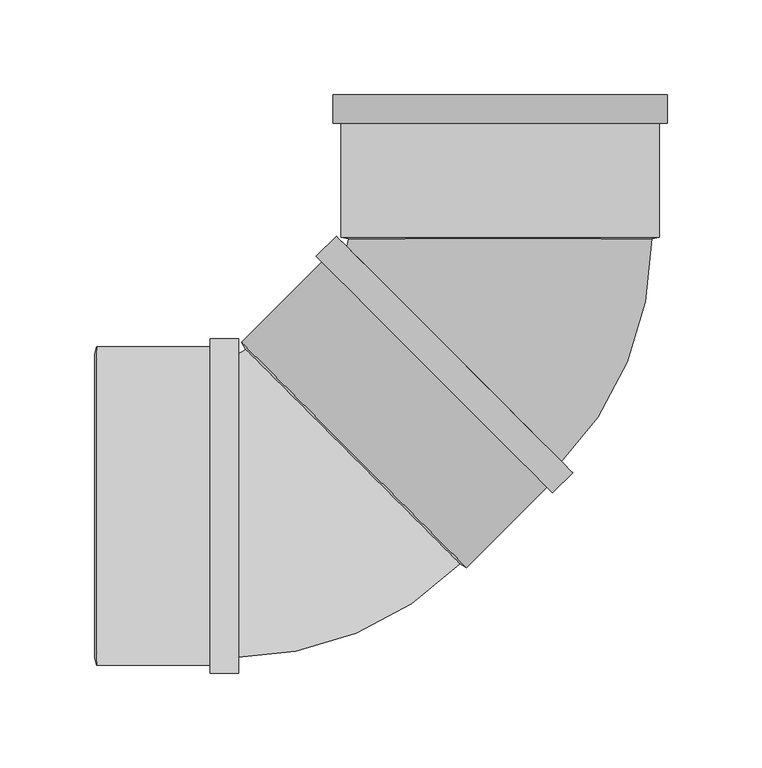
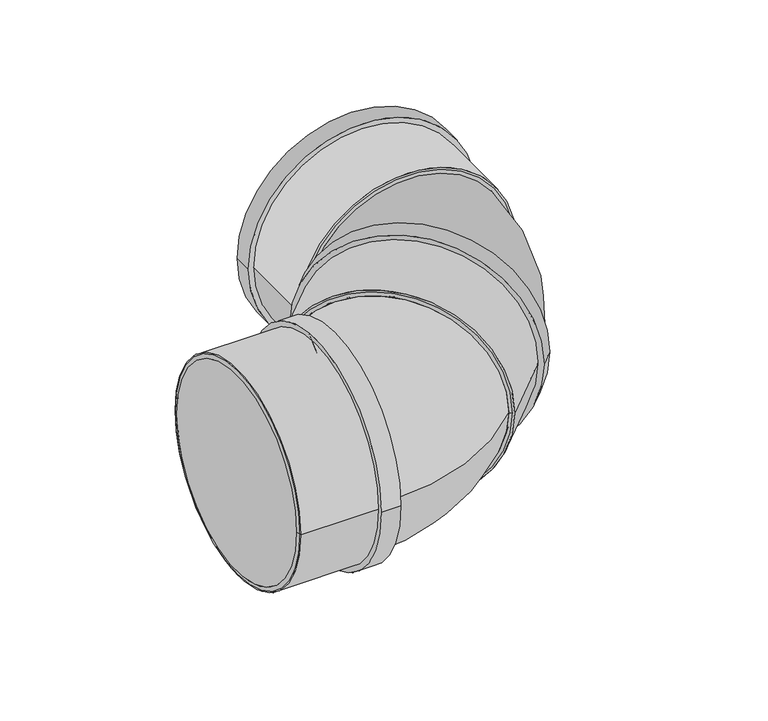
"""IFC4 building model written with IfcOpenShell, lengths in millimetres: pipe fitting geometry, Superdrain HT Bend Composite 2x45 : Superdrain HT Bend Composite 2x45."""

from ifc_helpers import new_model, si_unit, point, frame, origin, origin_2d, place, context, project, spatial, polyline, circle_curve, ellipse_curve, trimmed, segment, composite_curve, outline, extrude, source, transform, mapped, element, save
from ifc_brep_helpers import plane_surface, revolved_surface, advanced_brep


def pipe_fitting_c3cd4e37(model_context):
    return source(origin(), model_context, "Body", "SolidModel", [
        advanced_brep(
        [(80.0, 140.7739862, 0.0), (-80.0, 140.7739862, 0.0), (30.4763023, 21.2132034, 0.0), (-82.6607827, 134.3502884, 0.0)],
        [
            (0, 1, circle_curve(frame((0.0, 140.7739862, 0.0), z_axis=(0.0, 0.9999999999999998, 0.0), x_axis=(-0.9999999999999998, 0.0, 0.0)), 80.0)),
            (1, 0, circle_curve(frame((0.0, 140.7739862, 0.0), z_axis=(0.0, 1.0, 0.0), x_axis=(-1.0, 0.0, 0.0)), 80.0)),
            (2, 3, circle_curve(frame((-26.0922402, 77.7817459, 0.0), z_axis=(-0.7071067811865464, -0.7071067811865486, 0.0), x_axis=(-0.7071067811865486, 0.7071067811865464, 0.0)), 80.0)),
            (3, 2, circle_curve(frame((-26.0922402, 77.7817459, 0.0), z_axis=(-0.7071067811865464, -0.7071067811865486, 0.0), x_axis=(-0.7071067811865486, 0.7071067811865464, 0.0)), 80.0)),
            (3, 1, circle_curve(frame((-89.0844805, 140.7739862, 0.0), z_axis=(0.0, 0.0, 1.0), x_axis=(0.7071067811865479, 0.707106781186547, 0.0)), 9.0844805)),
            (0, 2, circle_curve(frame((-89.0844805, 140.7739862, 0.0), z_axis=(0.0, 0.0, -1.0), x_axis=(0.7071067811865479, 0.707106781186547, 0.0)), 169.0844805)),
        ],
        [
            plane_surface(frame((0.0, 140.7739862, 0.0), z_axis=(0.0, 1.0, 0.0), x_axis=(0.0, 0.0, -1.0))),
            plane_surface(frame((-26.0922402, 77.7817459, 0.0), z_axis=(-0.7071067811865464, -0.7071067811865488, 0.0), x_axis=(0.0, 0.0, -1.0))),
            revolved_surface(trimmed(ellipse_curve(frame((-26.0922402, 203.7662264, 0.0), z_axis=(0.7071067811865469, -0.707106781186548, 0.0), x_axis=(-0.707106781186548, -0.7071067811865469, 0.0)), 80.0, 80.0), [point((-82.6607827, 147.1976839, 0.0))], [point((30.4763023, 260.3347689, 0.0))], True, "CARTESIAN"), (-89.0844805, 140.7739862, 0.0), (0.0, 0.0, 1.0)),
            revolved_surface(trimmed(ellipse_curve(frame((-26.0922402, 203.7662264, 0.0), z_axis=(0.7071067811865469, -0.707106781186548, 0.0), x_axis=(-0.707106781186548, -0.7071067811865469, 0.0)), 80.0, 80.0), [point((30.4763023, 260.3347689, 0.0))], [point((-82.6607827, 147.1976839, 0.0))], True, "CARTESIAN"), (-89.0844805, 140.7739862, 0.0), (0.0, 0.0, 1.0)),
        ],
        [
            (0, [[1, 2]]),
            (1, [[3, 4]]),
            (2, [[-4, 5, -1, 6]]),
            (3, [[-3, -6, -2, -5]]),
        ],
    ),
        extrude(outline(composite_curve([segment(trimmed(circle_curve(origin_2d(), 84.0), [point((0.0, 84.0))], [point((0.0, -84.0))], False, "CARTESIAN"), True, "CONTINUOUS"), segment(trimmed(circle_curve(origin_2d(), 84.0), [point((0.0, -84.0))], [point((0.0, 84.0))], False, "CARTESIAN"), True, "CONTINUOUS")], self_intersect=False), holes=[composite_curve([segment(trimmed(circle_curve(origin_2d(), 80.0), [point((0.0, 80.0))], [point((0.0, -80.0))], True, "CARTESIAN"), True, "CONTINUOUS"), segment(trimmed(circle_curve(origin_2d(), 80.0), [point((0.0, -80.0))], [point((0.0, 80.0))], True, "CARTESIAN"), True, "CONTINUOUS")], self_intersect=False)]), frame((0.0, 141.7739862, 0.0), z_axis=(0.0, 1.0, 0.0), x_axis=(0.0, 0.0, 1.0)), (0.0, 0.0, 1.0), 75.0),
        extrude(outline(composite_curve([segment(trimmed(circle_curve(origin_2d(), 88.2), [point((0.0, -88.2))], [point((0.0, 88.2))], False, "CARTESIAN"), True, "CONTINUOUS"), segment(trimmed(circle_curve(origin_2d(), 88.2), [point((0.0, 88.2))], [point((0.0, -88.2))], False, "CARTESIAN"), True, "CONTINUOUS")], self_intersect=False), holes=[composite_curve([segment(trimmed(circle_curve(origin_2d(), 80.0), [point((0.0, -80.0))], [point((0.0, 80.0))], True, "CARTESIAN"), True, "CONTINUOUS"), segment(trimmed(circle_curve(origin_2d(), 80.0), [point((0.0, 80.0))], [point((0.0, -80.0))], True, "CARTESIAN"), True, "CONTINUOUS")], self_intersect=False)]), frame((0.0, 201.7739862, 0.0), z_axis=(0.0, 1.0, 0.0), x_axis=(0.0, 0.0, 1.0)), (0.0, 0.0, 1.0), 15.0),
        advanced_brep(
        [(84.0, 141.7739862, 0.0), (-84.0, 141.7739862, 0.0), (80.0, 140.7739862, 0.0), (-80.0, 140.7739862, 0.0)],
        [
            (0, 1, circle_curve(frame((0.0, 141.7739862, 0.0), z_axis=(0.0, 1.0, 0.0), x_axis=(1.0, 0.0, 0.0)), 84.0)),
            (1, 0, circle_curve(frame((0.0, 141.7739862, 0.0), z_axis=(0.0, 1.0, 0.0), x_axis=(-1.0, 0.0, 0.0)), 84.0)),
            (2, 3, circle_curve(frame((0.0, 140.7739862, 0.0), z_axis=(0.0, -1.0, 0.0), x_axis=(-1.0, 0.0, 0.0)), 80.0)),
            (3, 2, circle_curve(frame((0.0, 140.7739862, 0.0), z_axis=(0.0, -1.0, 0.0), x_axis=(1.0, 0.0, 0.0)), 80.0)),
            (3, 1),
            (0, 2),
        ],
        [
            plane_surface(frame((0.0, 141.7739862, 0.0), z_axis=(0.0, 1.0, 0.0), x_axis=(0.0, 0.0, -1.0))),
            plane_surface(frame((0.0, 140.7739862, 0.0), z_axis=(0.0, -1.0, 0.0), x_axis=(0.0, 0.0, -1.0))),
            revolved_surface(polyline([(-80.0, 140.7739862, 0.0), (-84.0, 141.7739862, 0.0)]), (0.0, 120.7739862, 0.0), (0.0, 1.0, 0.0)),
            revolved_surface(polyline([(80.0, 140.7739862, 0.0), (84.0, 141.7739862, 0.0)]), (0.0, 120.7739862, 0.0), (0.0, 1.0, 0.0)),
        ],
        [
            (0, [[1, 2]]),
            (1, [[3, 4]]),
            (2, [[-4, 5, -1, 6]]),
            (3, [[-3, -6, -2, -5]]),
        ],
    ),
        extrude(outline(composite_curve([segment(trimmed(circle_curve(origin_2d(), 80.0), [point((0.0, -79.9999999))], [point((0.0, 80.0))], False, "CARTESIAN"), True, "CONTINUOUS"), segment(trimmed(circle_curve(origin_2d(), 80.0), [point((0.0, 80.0))], [point((0.0, -79.9999999))], False, "CARTESIAN"), True, "CONTINUOUS")], self_intersect=False)), frame((-77.0746391, 26.799347, 0.0), z_axis=(0.707106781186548, 0.7071067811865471, 0.0), x_axis=(0.0, 0.0, -1.0)), (0.0, 0.0, 1.0), 72.1),
        extrude(outline(composite_curve([segment(trimmed(circle_curve(origin_2d(), 84.0), [point((84.0, 0.0))], [point((-84.0, 0.0))], False, "CARTESIAN"), True, "CONTINUOUS"), segment(trimmed(circle_curve(origin_2d(), 84.0), [point((-84.0, 0.0))], [point((84.0, 0.0))], False, "CARTESIAN"), True, "CONTINUOUS")], self_intersect=False), holes=[composite_curve([segment(trimmed(circle_curve(origin_2d(), 80.0), [point((80.0, 0.0))], [point((-80.0, 0.0))], True, "CARTESIAN"), True, "CONTINUOUS"), segment(trimmed(circle_curve(origin_2d(), 80.0), [point((-80.0, 0.0))], [point((80.0, 0.0))], True, "CARTESIAN"), True, "CONTINUOUS")], self_intersect=False)]), frame((-212.8739862, 0.0, 0.0), z_axis=(1.0, 0.0, 0.0), x_axis=(0.0, 1.0, 0.0)), (0.0, 0.0, 1.0), 75.0),
        extrude(outline(composite_curve([segment(trimmed(circle_curve(origin_2d(), 88.2), [point((88.2, 0.0))], [point((-88.2, 0.0))], False, "CARTESIAN"), True, "CONTINUOUS"), segment(trimmed(circle_curve(origin_2d(), 88.2), [point((-88.2, 0.0))], [point((88.2, 0.0))], False, "CARTESIAN"), True, "CONTINUOUS")], self_intersect=False), holes=[composite_curve([segment(trimmed(circle_curve(origin_2d(), 80.0), [point((80.0, 0.0))], [point((-80.0, 0.0))], True, "CARTESIAN"), True, "CONTINUOUS"), segment(trimmed(circle_curve(origin_2d(), 80.0), [point((-80.0, 0.0))], [point((80.0, 0.0))], True, "CARTESIAN"), True, "CONTINUOUS")], self_intersect=False)]), frame((-152.8739862, 0.0, 0.0), z_axis=(1.0, 0.0, 0.0), x_axis=(0.0, 1.0, 0.0)), (0.0, 0.0, 1.0), 15.0),
        advanced_brep(
        [(-213.8739862, 80.0, 0.0), (-213.8739862, -80.0, 0.0), (-212.8739862, 84.0, 0.0), (-212.8739862, -84.0, 0.0)],
        [
            (0, 1, circle_curve(frame((-213.8739862, 0.0, 0.0), z_axis=(-1.0, 0.0, 0.0), x_axis=(0.0, 1.0000000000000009, 0.0)), 80.0)),
            (1, 0, circle_curve(frame((-213.8739862, 0.0, 0.0), z_axis=(-1.0, 0.0, 0.0), x_axis=(0.0, -1.0000000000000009, 0.0)), 80.0)),
            (2, 3, circle_curve(frame((-212.8739862, 0.0, 0.0), z_axis=(1.0, 0.0, 0.0), x_axis=(0.0, -1.0000000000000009, 0.0)), 84.0)),
            (3, 2, circle_curve(frame((-212.8739862, 0.0, 0.0), z_axis=(1.0, 0.0, 0.0), x_axis=(0.0, 1.0000000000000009, 0.0)), 84.0)),
            (3, 1),
            (0, 2),
        ],
        [
            plane_surface(frame((-213.8739862, 0.0, 0.0), z_axis=(-1.0, 0.0, 0.0), x_axis=(0.0, 0.0, -1.0))),
            plane_surface(frame((-212.8739862, 0.0, 0.0), z_axis=(1.0, 0.0, 0.0), x_axis=(0.0, 0.0, -1.0))),
            revolved_surface(polyline([(-213.8739862, 79.99999999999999, 0.0), (-212.8739862, 84.0, 0.0)]), (-233.8739862, 0.0, 0.0), (1.0000000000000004, 0.0, 0.0)),
            revolved_surface(polyline([(-213.8739862, -79.99999999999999, 0.0), (-212.8739862, -84.0, 0.0)]), (-233.8739862, 0.0, 0.0), (1.0000000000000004, 0.0, 0.0)),
        ],
        [
            (0, [[1, 2]]),
            (1, [[3, 4]]),
            (2, [[-4, 5, -1, 6]]),
            (3, [[-3, -6, -2, -5]]),
        ],
    ),
        advanced_brep(
        [(-21.2132034, -30.4763023, 0.0), (-134.3502884, 82.6607827, 0.0), (-140.7739862, -80.0, 0.0), (-140.7739862, 80.0, 0.0)],
        [
            (0, 1, circle_curve(frame((-77.7817459, 26.0922402, 0.0), z_axis=(0.7071067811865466, 0.7071067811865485, 0.0), x_axis=(-0.7071067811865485, 0.7071067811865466, 0.0)), 80.0)),
            (1, 0, circle_curve(frame((-77.7817459, 26.0922402, 0.0), z_axis=(0.7071067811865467, 0.7071067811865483, 0.0), x_axis=(-0.7071067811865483, 0.7071067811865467, 0.0)), 80.0)),
            (2, 3, circle_curve(frame((-140.7739862, 0.0, 0.0), z_axis=(-1.0, 0.0, 0.0), x_axis=(0.0, 1.0, 0.0)), 80.0)),
            (3, 2, circle_curve(frame((-140.7739862, 0.0, 0.0), z_axis=(-1.0, 0.0, 0.0), x_axis=(0.0, 1.0, 0.0)), 80.0)),
            (3, 1, circle_curve(frame((-140.7739862, 89.0844805, 0.0), z_axis=(0.0, 0.0, 1.0), x_axis=(1.0, 0.0, 0.0)), 9.0844805)),
            (0, 2, circle_curve(frame((-140.7739862, 89.0844805, 0.0), z_axis=(0.0, 0.0, -1.0), x_axis=(1.0, 0.0, 0.0)), 169.0844805)),
        ],
        [
            plane_surface(frame((-77.7817459, 26.0922402, 0.0), z_axis=(0.7071067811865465, 0.7071067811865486, 0.0), x_axis=(0.0, 0.0, -1.0))),
            plane_surface(frame((-140.7739862, 0.0, 0.0), z_axis=(-1.0, 0.0, 0.0), x_axis=(0.0, 0.0, -1.0))),
            revolved_surface(trimmed(ellipse_curve(frame((-51.6895057, 89.0844805, 0.0), z_axis=(0.0, -1.0, 0.0), x_axis=(-1.0, 0.0, 0.0)), 80.0, 80.0), [point((-131.6895057, 89.0844805, 0.0))], [point((28.3104943, 89.0844805, 0.0))], True, "CARTESIAN"), (-140.7739862, 89.0844805, 0.0), (0.0, 0.0, 1.0)),
            revolved_surface(trimmed(ellipse_curve(frame((-51.6895057, 89.0844805, 0.0), z_axis=(0.0, -1.0, 0.0), x_axis=(-1.0, 0.0, 0.0)), 80.0, 80.0), [point((28.3104943, 89.0844805, 0.0))], [point((-131.6895057, 89.0844805, 0.0))], True, "CARTESIAN"), (-140.7739862, 89.0844805, 0.0), (0.0, 0.0, 1.0)),
        ],
        [
            (0, [[1, 2]]),
            (1, [[3, 4]]),
            (2, [[-4, 5, -1, 6]]),
            (3, [[-3, -6, -2, -5]]),
        ],
    ),
        extrude(outline(composite_curve([segment(trimmed(circle_curve(origin_2d(), 84.0), [point((0.0, 84.0))], [point((0.0, -84.0))], False, "CARTESIAN"), True, "CONTINUOUS"), segment(trimmed(circle_curve(origin_2d(), 84.0), [point((0.0, -84.0))], [point((0.0, 84.0))], False, "CARTESIAN"), True, "CONTINUOUS")], self_intersect=False), holes=[composite_curve([segment(trimmed(circle_curve(origin_2d(), 80.0), [point((0.0, 79.9999999))], [point((0.0, -80.0))], True, "CARTESIAN"), True, "CONTINUOUS"), segment(trimmed(circle_curve(origin_2d(), 80.0), [point((0.0, -80.0))], [point((0.0, 79.9999999))], True, "CARTESIAN"), True, "CONTINUOUS")], self_intersect=False)]), frame((-77.0746391, 26.799347, 0.0), z_axis=(0.707106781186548, 0.707106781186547, 0.0), x_axis=(0.0, 0.0, 1.0)), (0.0, 0.0, 1.0), 75.0),
        extrude(outline(composite_curve([segment(trimmed(circle_curve(origin_2d(), 88.2), [point((0.0, -88.2))], [point((0.0, 88.2))], False, "CARTESIAN"), True, "CONTINUOUS"), segment(trimmed(circle_curve(origin_2d(), 88.2), [point((0.0, 88.2))], [point((0.0, -88.2))], False, "CARTESIAN"), True, "CONTINUOUS")], self_intersect=False), holes=[composite_curve([segment(trimmed(circle_curve(origin_2d(), 80.0), [point((0.0, -80.0))], [point((0.0, 80.0))], True, "CARTESIAN"), True, "CONTINUOUS"), segment(trimmed(circle_curve(origin_2d(), 80.0), [point((0.0, 80.0))], [point((0.0, -80.0))], True, "CARTESIAN"), True, "CONTINUOUS")], self_intersect=False)]), frame((-34.6482323, 69.2257539, 0.0), z_axis=(0.7071067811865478, 0.7071067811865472, 0.0), x_axis=(0.0, 0.0, 1.0)), (0.0, 0.0, 1.0), 15.0),
        advanced_brep(
        [(-17.6776695, -32.5976226, 0.0), (-136.4716088, 86.1963166, 0.0), (-21.2132034, -30.4763023, 0.0), (-134.3502884, 82.6607827, 0.0)],
        [
            (0, 1, circle_curve(frame((-77.0746391, 26.799347, 0.0), z_axis=(0.7071067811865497, 0.7071067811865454, 0.0), x_axis=(0.7071067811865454, -0.7071067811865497, 0.0)), 84.0)),
            (1, 0, circle_curve(frame((-77.0746391, 26.799347, 0.0), z_axis=(0.7071067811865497, 0.7071067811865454, 0.0), x_axis=(-0.7071067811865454, 0.7071067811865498, 0.0)), 84.0)),
            (2, 3, circle_curve(frame((-77.7817459, 26.0922402, 0.0), z_axis=(-0.7071067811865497, -0.7071067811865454, 0.0), x_axis=(-0.7071067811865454, 0.7071067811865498, 0.0)), 80.0)),
            (3, 2, circle_curve(frame((-77.7817459, 26.0922402, 0.0), z_axis=(-0.7071067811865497, -0.7071067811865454, 0.0), x_axis=(0.7071067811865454, -0.7071067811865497, 0.0)), 80.0)),
            (3, 1),
            (0, 2),
        ],
        [
            plane_surface(frame((-77.0746391, 26.799347, 0.0), z_axis=(0.7071067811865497, 0.7071067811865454, 0.0), x_axis=(0.0, 0.0, -1.0))),
            plane_surface(frame((-77.7817459, 26.0922402, 0.0), z_axis=(-0.7071067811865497, -0.7071067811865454, 0.0), x_axis=(0.0, 0.0, -1.0))),
            revolved_surface(polyline([(-134.35028855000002, 82.66078285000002, 0.0), (-136.47160895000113, 86.19631685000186, 0.0)]), (-91.9238816, 11.9501046, 0.0), (0.7071067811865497, 0.7071067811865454, 0.0)),
            revolved_surface(polyline([(-21.21320349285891, -30.476302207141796, 0.0), (-17.677669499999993, -32.597622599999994, 0.0)]), (-91.9238816, 11.9501046, 0.0), (0.7071067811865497, 0.7071067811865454, 0.0)),
        ],
        [
            (0, [[1, 2]]),
            (1, [[3, 4]]),
            (2, [[-4, 5, -1, 6]]),
            (3, [[-3, -6, -2, -5]]),
        ],
    ),
        extrude(outline(composite_curve([segment(trimmed(circle_curve(origin_2d(), 80.0), [point((-80.0, 0.0))], [point((80.0, 0.0))], False, "CARTESIAN"), True, "CONTINUOUS"), segment(trimmed(circle_curve(origin_2d(), 80.0), [point((80.0, 0.0))], [point((-80.0, 0.0))], False, "CARTESIAN"), True, "CONTINUOUS")], self_intersect=False)), frame((-212.8739862, 0.0, 0.0), z_axis=(1.0, 0.0, 0.0), x_axis=(0.0, 1.0, 0.0)), (0.0, 0.0, 1.0), 72.1),
    ])


if __name__ == "__main__":
    model = new_model("IFC4")
    model_context = context("Model", 3, world=origin())
    ifc_project = project(units=[si_unit("LENGTHUNIT", "METRE", prefix="MILLI")], contexts=[model_context])
    site = spatial("IfcSite", under=ifc_project)
    building = spatial("IfcBuilding", under=site)
    placement = place(None, origin())
    pipe_fitting_shape = pipe_fitting_c3cd4e37(model_context)
    element("IfcPipeFitting", 1, ObjectType="Superdrain HT Bend Composite 2x45 : Superdrain HT Bend Composite 2x45", at=placement, inside=building, context=model_context, shape_type="MappedRepresentation", body=[
        mapped(pipe_fitting_shape, transform((0.0, 0.0, 0.0), x_axis=(1.0, 0.0, 0.0), y_axis=(0.0, 1.0, 0.0), z_axis=(0.0, 0.0, 1.0))),
    ])
    save(model, "model.ifc")
